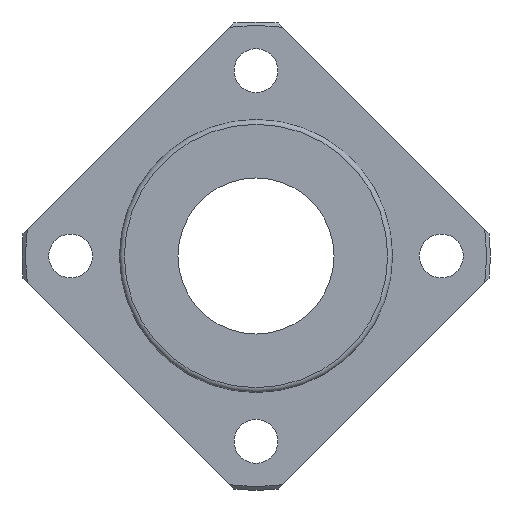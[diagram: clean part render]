
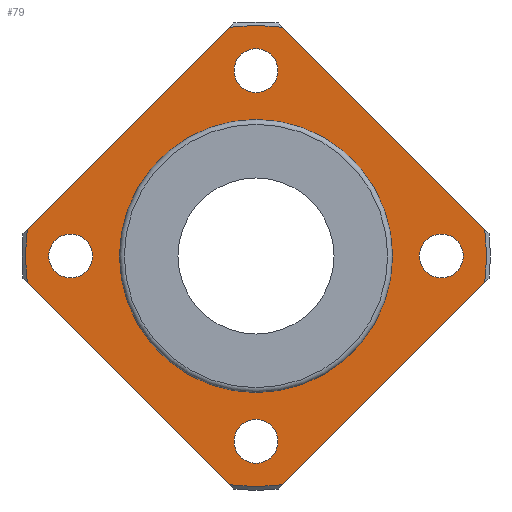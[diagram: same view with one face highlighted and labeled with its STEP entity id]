
A CAD part, left-side view. The second image highlights one B-rep face of the part: STEP entity #79.
In plain terms, the highlighted planar face has unit normal (-1, 0, 0).
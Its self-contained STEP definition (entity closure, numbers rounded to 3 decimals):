
#79=ADVANCED_FACE('',(#125,#126,#127,#128,#129,#130),#131,.T.);
#125=FACE_BOUND('',#240,.T.);
#126=FACE_BOUND('',#241,.T.);
#127=FACE_BOUND('',#242,.T.);
#128=FACE_BOUND('',#243,.T.);
#129=FACE_BOUND('',#244,.T.);
#130=FACE_OUTER_BOUND('',#245,.T.);
#131=PLANE('',#246);
#240=EDGE_LOOP('',(#387));
#241=EDGE_LOOP('',(#388));
#242=EDGE_LOOP('',(#389));
#243=EDGE_LOOP('',(#390));
#244=EDGE_LOOP('',(#391));
#245=EDGE_LOOP('',(#392,#393,#394,#395,#396,#397,#398,#399));
#246=AXIS2_PLACEMENT_3D('',#400,#401,#402);
#387=ORIENTED_EDGE('',*,*,#648,.F.);
#388=ORIENTED_EDGE('',*,*,#649,.T.);
#389=ORIENTED_EDGE('',*,*,#650,.T.);
#390=ORIENTED_EDGE('',*,*,#651,.T.);
#391=ORIENTED_EDGE('',*,*,#652,.T.);
#392=ORIENTED_EDGE('',*,*,#632,.T.);
#393=ORIENTED_EDGE('',*,*,#634,.T.);
#394=ORIENTED_EDGE('',*,*,#653,.T.);
#395=ORIENTED_EDGE('',*,*,#654,.T.);
#396=ORIENTED_EDGE('',*,*,#655,.T.);
#397=ORIENTED_EDGE('',*,*,#622,.T.);
#398=ORIENTED_EDGE('',*,*,#656,.T.);
#399=ORIENTED_EDGE('',*,*,#641,.T.);
#400=CARTESIAN_POINT('',(-6.0,18.55,0.));
#401=DIRECTION('',(-1.0,0.,0.));
#402=DIRECTION('',(0.,0.0,1.0));
#622=EDGE_CURVE('',#698,#699,#700,.T.);
#632=EDGE_CURVE('',#719,#717,#720,.T.);
#634=EDGE_CURVE('',#717,#722,#723,.T.);
#641=EDGE_CURVE('',#735,#719,#736,.T.);
#648=EDGE_CURVE('',#748,#748,#749,.T.);
#649=EDGE_CURVE('',#750,#750,#751,.T.);
#650=EDGE_CURVE('',#752,#752,#753,.T.);
#651=EDGE_CURVE('',#754,#754,#755,.T.);
#652=EDGE_CURVE('',#756,#756,#757,.T.);
#653=EDGE_CURVE('',#722,#758,#759,.T.);
#654=EDGE_CURVE('',#758,#760,#761,.T.);
#655=EDGE_CURVE('',#760,#698,#762,.T.);
#656=EDGE_CURVE('',#699,#735,#763,.T.);
#698=VERTEX_POINT('',#834);
#699=VERTEX_POINT('',#835);
#700=LINE('',#836,#837);
#717=VERTEX_POINT('',#869);
#719=VERTEX_POINT('',#874);
#720=CIRCLE('',#875,23.6);
#722=VERTEX_POINT('',#880);
#723=LINE('',#881,#882);
#735=VERTEX_POINT('',#906);
#736=LINE('',#907,#908);
#748=VERTEX_POINT('',#932);
#749=CIRCLE('',#933,13.5);
#750=VERTEX_POINT('',#934);
#751=CIRCLE('',#935,2.25);
#752=VERTEX_POINT('',#936);
#753=CIRCLE('',#937,2.25);
#754=VERTEX_POINT('',#938);
#755=CIRCLE('',#939,2.25);
#756=VERTEX_POINT('',#940);
#757=CIRCLE('',#941,2.25);
#758=VERTEX_POINT('',#942);
#759=CIRCLE('',#943,23.6);
#760=VERTEX_POINT('',#944);
#761=LINE('',#945,#946);
#762=CIRCLE('',#947,23.6);
#763=CIRCLE('',#948,23.6);
#834=CARTESIAN_POINT('',(-6.0,-23.443,2.72));
#835=CARTESIAN_POINT('',(-6.0,-2.72,23.443));
#836=CARTESIAN_POINT('',(-6.0,-3.806,22.356));
#837=VECTOR('',#1034,1.0);
#869=CARTESIAN_POINT('',(-6.0,23.443,-2.72));
#874=CARTESIAN_POINT('',(-6.0,23.443,2.72));
#875=AXIS2_PLACEMENT_3D('',#1041,#1042,#1043);
#880=CARTESIAN_POINT('',(-6.0,2.72,-23.443));
#881=CARTESIAN_POINT('',(-6.0,22.356,-3.806));
#882=VECTOR('',#1044,1.0);
#906=CARTESIAN_POINT('',(-6.0,2.72,23.443));
#907=CARTESIAN_POINT('',(-6.0,22.356,3.806));
#908=VECTOR('',#1048,1.0);
#932=CARTESIAN_POINT('',(-6.0,13.5,0.));
#933=AXIS2_PLACEMENT_3D('',#1052,#1053,#1054);
#934=CARTESIAN_POINT('',(-6.0,19.0,2.25));
#935=AXIS2_PLACEMENT_3D('',#1055,#1056,#1057);
#936=CARTESIAN_POINT('',(-6.0,-19.0,2.25));
#937=AXIS2_PLACEMENT_3D('',#1058,#1059,#1060);
#938=CARTESIAN_POINT('',(-6.0,0.,21.25));
#939=AXIS2_PLACEMENT_3D('',#1061,#1062,#1063);
#940=CARTESIAN_POINT('',(-6.0,0.,-16.75));
#941=AXIS2_PLACEMENT_3D('',#1064,#1065,#1066);
#942=CARTESIAN_POINT('',(-6.0,-2.72,-23.443));
#943=AXIS2_PLACEMENT_3D('',#1067,#1068,#1069);
#944=CARTESIAN_POINT('',(-6.0,-23.443,-2.72));
#945=CARTESIAN_POINT('',(-6.0,-3.806,-22.356));
#946=VECTOR('',#1070,1.0);
#947=AXIS2_PLACEMENT_3D('',#1071,#1072,#1073);
#948=AXIS2_PLACEMENT_3D('',#1074,#1075,#1076);
#1034=DIRECTION('',(0.,0.707,0.707));
#1041=CARTESIAN_POINT('',(-6.0,0.,0.));
#1042=DIRECTION('',(-1.0,0.0,0.));
#1043=DIRECTION('',(0.0,1.0,0.0));
#1044=DIRECTION('',(0.,-0.707,-0.707));
#1048=DIRECTION('',(0.,0.707,-0.707));
#1052=CARTESIAN_POINT('',(-6.0,0.,0.));
#1053=DIRECTION('',(-1.0,0.0,0.));
#1054=DIRECTION('',(0.0,1.0,0.0));
#1055=CARTESIAN_POINT('',(-6.0,19.0,0.));
#1056=DIRECTION('',(1.0,0.,0.));
#1057=DIRECTION('',(0.,0.0,-1.0));
#1058=CARTESIAN_POINT('',(-6.0,-19.0,0.));
#1059=DIRECTION('',(1.0,0.,0.));
#1060=DIRECTION('',(0.,0.0,-1.0));
#1061=CARTESIAN_POINT('',(-6.0,0.,19.0));
#1062=DIRECTION('',(1.0,0.,0.));
#1063=DIRECTION('',(0.,0.0,-1.0));
#1064=CARTESIAN_POINT('',(-6.0,0.,-19.0));
#1065=DIRECTION('',(1.0,0.,0.));
#1066=DIRECTION('',(0.,0.0,-1.0));
#1067=CARTESIAN_POINT('',(-6.0,0.,0.));
#1068=DIRECTION('',(-1.0,0.0,0.));
#1069=DIRECTION('',(0.0,1.0,0.0));
#1070=DIRECTION('',(0.,-0.707,0.707));
#1071=CARTESIAN_POINT('',(-6.0,0.,0.));
#1072=DIRECTION('',(-1.0,0.0,0.));
#1073=DIRECTION('',(0.0,1.0,0.0));
#1074=CARTESIAN_POINT('',(-6.0,0.,0.));
#1075=DIRECTION('',(-1.0,0.0,0.));
#1076=DIRECTION('',(0.0,1.0,0.0));
